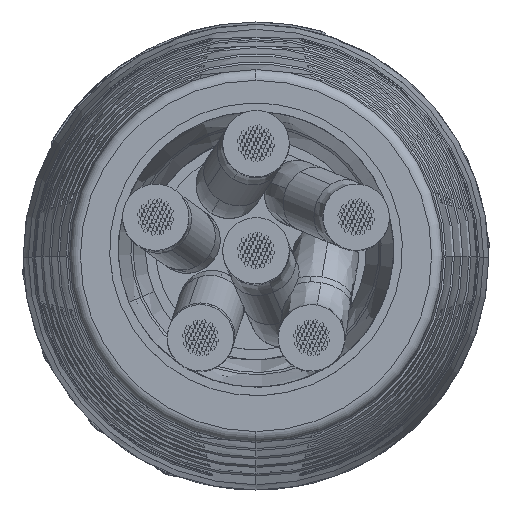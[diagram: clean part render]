
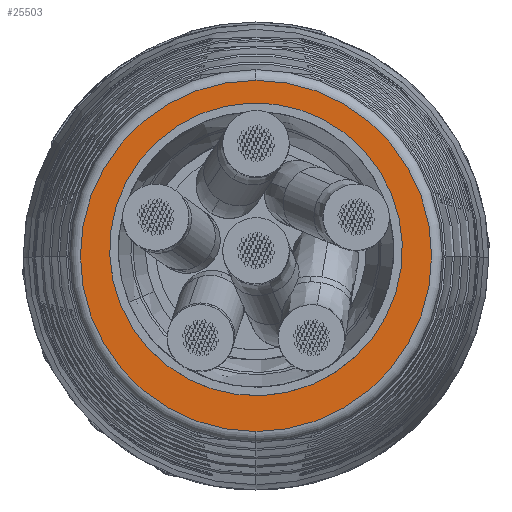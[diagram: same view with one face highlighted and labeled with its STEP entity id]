
A CAD part, top view. The second image highlights one B-rep face of the part: STEP entity #25503.
In plain terms, the highlighted planar face has unit normal (0, 0, 1).
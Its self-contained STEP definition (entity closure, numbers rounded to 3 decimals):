
#10032 = VERTEX_POINT ( 'NONE', #82683 ) ;
#16908 = EDGE_LOOP ( 'NONE', ( #33755, #93309 ) ) ;
#19684 = PLANE ( 'NONE',  #99070 ) ;
#21180 = DIRECTION ( 'NONE',  ( 0., 0., -1. ) ) ;
#25503 = ADVANCED_FACE ( 'NONE', ( #69942 ), #19684, .T. ) ;
#28305 = DIRECTION ( 'NONE',  ( 0., 1., 0. ) ) ;
#28564 = DIRECTION ( 'NONE',  ( 0., 1., 0. ) ) ;
#31715 = CIRCLE ( 'NONE', #93897, 8.192 ) ;
#32748 = DIRECTION ( 'NONE',  ( 0., 1., 0. ) ) ;
#33755 = ORIENTED_EDGE ( 'NONE', *, *, #112581, .F. ) ;
#42227 = CARTESIAN_POINT ( 'NONE',  ( -1.199, -1.014, -219.882 ) ) ;
#51656 = DIRECTION ( 'NONE',  ( 0., 0., -1. ) ) ;
#54052 = EDGE_CURVE ( 'NONE', #10032, #93653, #83013, .T. ) ;
#69942 = FACE_OUTER_BOUND ( 'NONE', #16908, .T. ) ;
#72873 = DIRECTION ( 'NONE',  ( 0., 0., 1. ) ) ;
#82683 = CARTESIAN_POINT ( 'NONE',  ( -1.199, -9.206, -219.882 ) ) ;
#83013 = CIRCLE ( 'NONE', #94030, 8.192 ) ;
#93222 = CARTESIAN_POINT ( 'NONE',  ( -1.199, -1.014, -219.882 ) ) ;
#93309 = ORIENTED_EDGE ( 'NONE', *, *, #54052, .F. ) ;
#93653 = VERTEX_POINT ( 'NONE', #108076 ) ;
#93897 = AXIS2_PLACEMENT_3D ( 'NONE', #42227, #51656, #32748 ) ;
#94030 = AXIS2_PLACEMENT_3D ( 'NONE', #93222, #21180, #28305 ) ;
#99070 = AXIS2_PLACEMENT_3D ( 'NONE', #109363, #72873, #28564 ) ;
#108076 = CARTESIAN_POINT ( 'NONE',  ( -1.199, 7.177, -219.882 ) ) ;
#109363 = CARTESIAN_POINT ( 'NONE',  ( 9.301, 9.486, -219.882 ) ) ;
#112581 = EDGE_CURVE ( 'NONE', #93653, #10032, #31715, .T. ) ;
